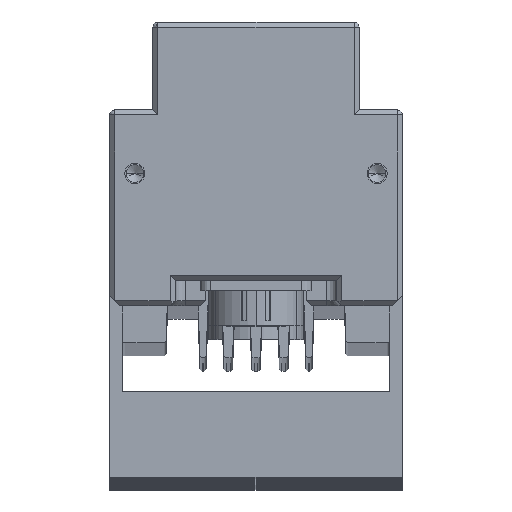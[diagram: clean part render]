
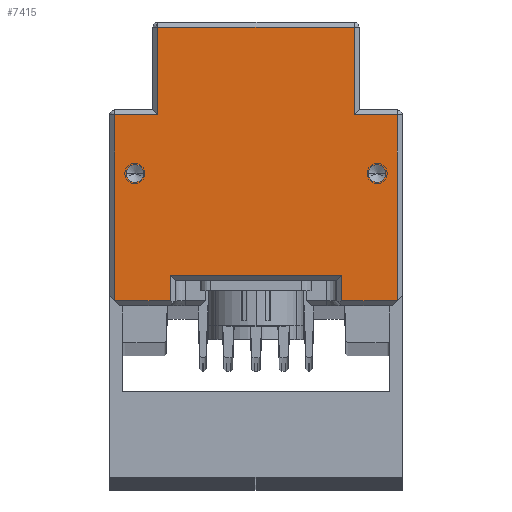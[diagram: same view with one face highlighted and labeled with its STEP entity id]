
A CAD part, top view. The second image highlights one B-rep face of the part: STEP entity #7415.
In plain terms, the highlighted planar face has unit normal (0, 0, 1).
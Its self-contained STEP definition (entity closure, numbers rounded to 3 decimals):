
#649=DIRECTION('',(1.,0.,0.));
#650=VECTOR('',#649,11.);
#651=CARTESIAN_POINT('',(-28.,-9.406,785.));
#652=LINE('',#651,#650);
#653=DIRECTION('',(0.,-1.,0.));
#654=VECTOR('',#653,36.8);
#655=CARTESIAN_POINT('',(-28.,27.394,785.));
#656=LINE('',#655,#654);
#657=DIRECTION('',(-1.,0.,0.));
#658=VECTOR('',#657,8.55);
#659=CARTESIAN_POINT('',(-19.45,27.394,785.));
#660=LINE('',#659,#658);
#661=DIRECTION('',(0.,-1.,0.));
#662=VECTOR('',#661,17.4);
#663=CARTESIAN_POINT('',(-19.45,44.794,785.));
#664=LINE('',#663,#662);
#665=DIRECTION('',(-1.,0.,0.));
#666=VECTOR('',#665,38.899);
#667=CARTESIAN_POINT('',(19.45,44.794,785.));
#668=LINE('',#667,#666);
#669=DIRECTION('',(0.,1.,0.));
#670=VECTOR('',#669,17.4);
#671=CARTESIAN_POINT('',(19.45,27.394,785.));
#672=LINE('',#671,#670);
#673=DIRECTION('',(-1.,0.,0.));
#674=VECTOR('',#673,8.55);
#675=CARTESIAN_POINT('',(28.,27.394,785.));
#676=LINE('',#675,#674);
#677=DIRECTION('',(0.,1.,0.));
#678=VECTOR('',#677,36.8);
#679=CARTESIAN_POINT('',(28.,-9.406,785.));
#680=LINE('',#679,#678);
#681=DIRECTION('',(1.,0.,0.));
#682=VECTOR('',#681,11.);
#683=CARTESIAN_POINT('',(17.,-9.406,785.));
#684=LINE('',#683,#682);
#685=DIRECTION('',(0.,-1.,0.));
#686=VECTOR('',#685,5.);
#687=CARTESIAN_POINT('',(17.,-4.406,785.));
#688=LINE('',#687,#686);
#689=DIRECTION('',(-1.,0.,0.));
#690=VECTOR('',#689,34.);
#691=CARTESIAN_POINT('',(17.,-4.406,785.));
#692=LINE('',#691,#690);
#693=DIRECTION('',(0.,1.,0.));
#694=VECTOR('',#693,5.);
#695=CARTESIAN_POINT('',(-17.,-9.406,785.));
#696=LINE('',#695,#694);
#697=CARTESIAN_POINT('',(24.,15.794,785.));
#698=DIRECTION('',(0.,0.,-1.));
#699=DIRECTION('',(1.,0.,0.));
#700=AXIS2_PLACEMENT_3D('',#697,#698,#699);
#702=CARTESIAN_POINT('',(24.,15.794,785.));
#703=DIRECTION('',(0.,0.,-1.));
#704=DIRECTION('',(-1.,0.,0.));
#705=AXIS2_PLACEMENT_3D('',#702,#703,#704);
#707=CARTESIAN_POINT('',(-24.,15.794,785.));
#708=DIRECTION('',(0.,0.,-1.));
#709=DIRECTION('',(1.,0.,0.));
#710=AXIS2_PLACEMENT_3D('',#707,#708,#709);
#712=CARTESIAN_POINT('',(-24.,15.794,785.));
#713=DIRECTION('',(0.,0.,-1.));
#714=DIRECTION('',(-1.,0.,0.));
#715=AXIS2_PLACEMENT_3D('',#712,#713,#714);
#5482=CARTESIAN_POINT('',(-28.,-9.406,785.));
#5483=CARTESIAN_POINT('',(-17.,-9.406,785.));
#5484=VERTEX_POINT('',#5482);
#5485=VERTEX_POINT('',#5483);
#5494=CARTESIAN_POINT('',(-28.,27.394,785.));
#5495=VERTEX_POINT('',#5494);
#5498=CARTESIAN_POINT('',(-19.45,27.394,785.));
#5499=VERTEX_POINT('',#5498);
#5502=CARTESIAN_POINT('',(19.45,27.394,785.));
#5503=CARTESIAN_POINT('',(19.45,44.794,785.));
#5504=VERTEX_POINT('',#5502);
#5505=VERTEX_POINT('',#5503);
#5512=CARTESIAN_POINT('',(-19.45,44.794,785.));
#5513=VERTEX_POINT('',#5512);
#5518=CARTESIAN_POINT('',(28.,-9.406,785.));
#5519=CARTESIAN_POINT('',(28.,27.394,785.));
#5520=VERTEX_POINT('',#5518);
#5521=VERTEX_POINT('',#5519);
#5532=CARTESIAN_POINT('',(17.,-9.406,785.));
#5533=VERTEX_POINT('',#5532);
#5554=CARTESIAN_POINT('',(17.,-4.406,785.));
#5555=VERTEX_POINT('',#5554);
#5556=CARTESIAN_POINT('',(-17.,-4.406,785.));
#5557=VERTEX_POINT('',#5556);
#6188=CARTESIAN_POINT('',(25.75,15.794,785.));
#6189=VERTEX_POINT('',#6188);
#6190=CARTESIAN_POINT('',(22.25,15.794,785.));
#6191=VERTEX_POINT('',#6190);
#6198=CARTESIAN_POINT('',(-22.25,15.794,785.));
#6199=VERTEX_POINT('',#6198);
#6200=CARTESIAN_POINT('',(-25.75,15.794,785.));
#6201=VERTEX_POINT('',#6200);
#7373=CARTESIAN_POINT('',(0.,0.,785.));
#7374=DIRECTION('',(0.,0.,1.));
#7375=DIRECTION('',(1.,0.,0.));
#7376=AXIS2_PLACEMENT_3D('',#7373,#7374,#7375);
#7377=PLANE('',#7376);
#7379=ORIENTED_EDGE('',*,*,#7378,.F.);
#7381=ORIENTED_EDGE('',*,*,#7380,.F.);
#7383=ORIENTED_EDGE('',*,*,#7382,.F.);
#7385=ORIENTED_EDGE('',*,*,#7384,.F.);
#7387=ORIENTED_EDGE('',*,*,#7386,.F.);
#7389=ORIENTED_EDGE('',*,*,#7388,.F.);
#7391=ORIENTED_EDGE('',*,*,#7390,.F.);
#7393=ORIENTED_EDGE('',*,*,#7392,.F.);
#7395=ORIENTED_EDGE('',*,*,#7394,.F.);
#7397=ORIENTED_EDGE('',*,*,#7396,.F.);
#7399=ORIENTED_EDGE('',*,*,#7398,.T.);
#7400=ORIENTED_EDGE('',*,*,#7362,.F.);
#7401=EDGE_LOOP('',(#7379,#7381,#7383,#7385,#7387,#7389,#7391,#7393,#7395,#7397,
#7399,#7400));
#7402=FACE_OUTER_BOUND('',#7401,.F.);
#7404=ORIENTED_EDGE('',*,*,#7403,.F.);
#7406=ORIENTED_EDGE('',*,*,#7405,.F.);
#7407=EDGE_LOOP('',(#7404,#7406));
#7408=FACE_BOUND('',#7407,.F.);
#7410=ORIENTED_EDGE('',*,*,#7409,.F.);
#7412=ORIENTED_EDGE('',*,*,#7411,.F.);
#7413=EDGE_LOOP('',(#7410,#7412));
#7414=FACE_BOUND('',#7413,.F.);
#701=CIRCLE('',#700,1.75);
#706=CIRCLE('',#705,1.75);
#711=CIRCLE('',#710,1.75);
#716=CIRCLE('',#715,1.75);
#7362=EDGE_CURVE('',#5485,#5557,#696,.T.);
#7378=EDGE_CURVE('',#5484,#5485,#652,.T.);
#7380=EDGE_CURVE('',#5495,#5484,#656,.T.);
#7382=EDGE_CURVE('',#5499,#5495,#660,.T.);
#7384=EDGE_CURVE('',#5513,#5499,#664,.T.);
#7386=EDGE_CURVE('',#5505,#5513,#668,.T.);
#7388=EDGE_CURVE('',#5504,#5505,#672,.T.);
#7390=EDGE_CURVE('',#5521,#5504,#676,.T.);
#7392=EDGE_CURVE('',#5520,#5521,#680,.T.);
#7394=EDGE_CURVE('',#5533,#5520,#684,.T.);
#7396=EDGE_CURVE('',#5555,#5533,#688,.T.);
#7398=EDGE_CURVE('',#5555,#5557,#692,.T.);
#7403=EDGE_CURVE('',#6189,#6191,#701,.T.);
#7405=EDGE_CURVE('',#6191,#6189,#706,.T.);
#7409=EDGE_CURVE('',#6199,#6201,#711,.T.);
#7411=EDGE_CURVE('',#6201,#6199,#716,.T.);
#7415=ADVANCED_FACE('',(#7402,#7408,#7414),#7377,.T.);
